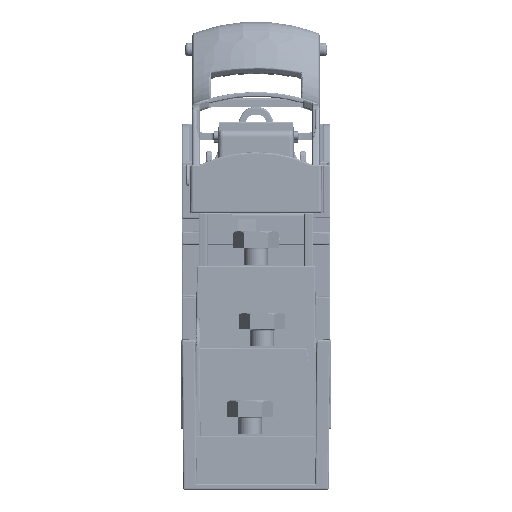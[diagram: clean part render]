
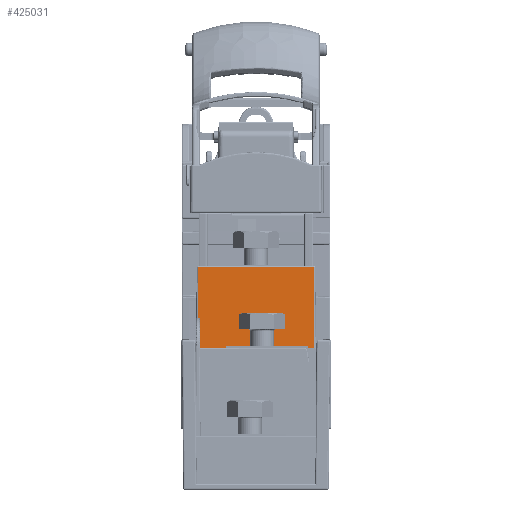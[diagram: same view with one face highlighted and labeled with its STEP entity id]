
A CAD part, left-side view. The second image highlights one B-rep face of the part: STEP entity #425031.
In plain terms, the highlighted planar face has unit normal (-1, 0, 0.009).
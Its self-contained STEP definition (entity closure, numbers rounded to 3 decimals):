
#18945 = ORIENTED_EDGE ( 'NONE', *, *, #455516, .T. ) ;
#18949 = ORIENTED_EDGE ( 'NONE', *, *, #464368, .T. ) ;
#18953 = ORIENTED_EDGE ( 'NONE', *, *, #496455, .F. ) ;
#18958 = ORIENTED_EDGE ( 'NONE', *, *, #464341, .T. ) ;
#18962 = ORIENTED_EDGE ( 'NONE', *, *, #394433, .T. ) ;
#18966 = ORIENTED_EDGE ( 'NONE', *, *, #464446, .T. ) ;
#18970 = ORIENTED_EDGE ( 'NONE', *, *, #464567, .T. ) ;
#18974 = ORIENTED_EDGE ( 'NONE', *, *, #464573, .T. ) ;
#18979 = ORIENTED_EDGE ( 'NONE', *, *, #464618, .T. ) ;
#18983 = ORIENTED_EDGE ( 'NONE', *, *, #393338, .F. ) ;
#18988 = ORIENTED_EDGE ( 'NONE', *, *, #393348, .F. ) ;
#18992 = ORIENTED_EDGE ( 'NONE', *, *, #393356, .T. ) ;
#18997 = ORIENTED_EDGE ( 'NONE', *, *, #464652, .T. ) ;
#19000 = ORIENTED_EDGE ( 'NONE', *, *, #464607, .T. ) ;
#19004 = ORIENTED_EDGE ( 'NONE', *, *, #486811, .T. ) ;
#24376 = B_SPLINE_CURVE_WITH_KNOTS ( 'NONE', 3,
 ( #382314, #382445, #382463, #382466 ),
 .UNSPECIFIED., .F., .F.,
 ( 4, 4 ),
 ( 0., 0. ),
 .UNSPECIFIED. ) ;
#89797 = CARTESIAN_POINT ( 'NONE',  ( -84.5, -18.831, 28. ) ) ;
#89870 = CARTESIAN_POINT ( 'NONE',  ( -84.5, -19.004, 28. ) ) ;
#89874 = CARTESIAN_POINT ( 'NONE',  ( -84.5, -19.172, 27.956 ) ) ;
#89876 = CARTESIAN_POINT ( 'NONE',  ( -84.501, -19.323, 27.87 ) ) ;
#123190 = CARTESIAN_POINT ( 'NONE',  ( -84.513, -1.959, 26.5 ) ) ;
#123194 = CARTESIAN_POINT ( 'NONE',  ( -84.513, -1.939, 26.5 ) ) ;
#123206 = CARTESIAN_POINT ( 'NONE',  ( -84.513, -1.98, 26.5 ) ) ;
#123208 = CARTESIAN_POINT ( 'NONE',  ( -84.513, -2., 26.5 ) ) ;
#146854 = CARTESIAN_POINT ( 'NONE',  ( -84.513, -2., 26.5 ) ) ;
#149111 = VERTEX_POINT ( 'NONE', #146854 ) ;
#149311 = VERTEX_POINT ( 'NONE', #151153 ) ;
#151153 = CARTESIAN_POINT ( 'NONE',  ( -84.513, -2.061, 26.5 ) ) ;
#195599 = AXIS2_PLACEMENT_3D ( 'NONE', #362766, #362771, #362777 ) ;
#200033 = CARTESIAN_POINT ( 'NONE',  ( -84.5, -18.831, 28. ) ) ;
#200056 = CARTESIAN_POINT ( 'NONE',  ( -84.501, -19.323, 27.87 ) ) ;
#200159 = CARTESIAN_POINT ( 'NONE',  ( -84.415, 18.638, 37.703 ) ) ;
#200164 = CARTESIAN_POINT ( 'NONE',  ( -84.5, 18.553, 28. ) ) ;
#212322 = VERTEX_POINT ( 'NONE', #230699 ) ;
#212341 = VERTEX_POINT ( 'NONE', #230855 ) ;
#212349 = VERTEX_POINT ( 'NONE', #230899 ) ;
#213335 = VERTEX_POINT ( 'NONE', #219768 ) ;
#213368 = VERTEX_POINT ( 'NONE', #219826 ) ;
#213383 = VERTEX_POINT ( 'NONE', #219887 ) ;
#213402 = VERTEX_POINT ( 'NONE', #219932 ) ;
#213816 = VERTEX_POINT ( 'NONE', #200033 ) ;
#213834 = VERTEX_POINT ( 'NONE', #200056 ) ;
#213931 = VERTEX_POINT ( 'NONE', #200159 ) ;
#213937 = VERTEX_POINT ( 'NONE', #200164 ) ;
#219768 = CARTESIAN_POINT ( 'NONE',  ( -84.513, 4.4, 26.5 ) ) ;
#219826 = CARTESIAN_POINT ( 'NONE',  ( -84.413, 19.235, 38. ) ) ;
#219887 = CARTESIAN_POINT ( 'NONE',  ( -84.413, 18.938, 38. ) ) ;
#219932 = CARTESIAN_POINT ( 'NONE',  ( -84.5, 4.413, 28. ) ) ;
#230699 = CARTESIAN_POINT ( 'NONE',  ( -84.5, -8.413, 28. ) ) ;
#230855 = CARTESIAN_POINT ( 'NONE',  ( -84.513, -8.4, 26.5 ) ) ;
#230899 = CARTESIAN_POINT ( 'NONE',  ( -84.267, -19.089, 54.703 ) ) ;
#241577 = VERTEX_POINT ( 'NONE', #416715 ) ;
#241627 = VERTEX_POINT ( 'NONE', #416760 ) ;
#241655 = VECTOR ( 'NONE', #368118, 1000. ) ;
#241675 = VECTOR ( 'NONE', #368177, 1000. ) ;
#266799 = EDGE_LOOP ( 'NONE', ( #18945, #18949, #18953, #18958, #18962, #18966, #18970, #18974, #18979, #18983, #18988, #18992, #18997, #19000, #19004 ) ) ;
#281899 = B_SPLINE_CURVE_WITH_KNOTS ( 'NONE', 3,
 ( #123194, #123190, #123206, #123208 ),
 .UNSPECIFIED., .F., .F.,
 ( 4, 4 ),
 ( 0., 0. ),
 .UNSPECIFIED. ) ;
#294778 = VECTOR ( 'NONE', #385022, 1000. ) ;
#294818 = VECTOR ( 'NONE', #385094, 1000. ) ;
#294897 = VECTOR ( 'NONE', #385322, 1000. ) ;
#295017 = VECTOR ( 'NONE', #385688, 1000. ) ;
#295046 = VECTOR ( 'NONE', #385673, 1000. ) ;
#295089 = VECTOR ( 'NONE', #385773, 1000. ) ;
#295106 = VECTOR ( 'NONE', #385798, 1000. ) ;
#295135 = VECTOR ( 'NONE', #385899, 1000. ) ;
#362681 = FACE_OUTER_BOUND ( 'NONE', #266799, .T. ) ;
#362690 = PLANE ( 'NONE',  #195599 ) ;
#362766 = CARTESIAN_POINT ( 'NONE',  ( -84.5, 19.8, 28. ) ) ;
#362771 = DIRECTION ( 'NONE',  ( -1., 0., 0.009 ) ) ;
#362777 = DIRECTION ( 'NONE',  ( 0.009, 0., 1. ) ) ;
#367982 = CARTESIAN_POINT ( 'NONE',  ( -84.415, 18.638, 37.703 ) ) ;
#367994 = CARTESIAN_POINT ( 'NONE',  ( -84.5, 18.553, 28. ) ) ;
#368059 = CARTESIAN_POINT ( 'NONE',  ( -84.414, 18.639, 37.877 ) ) ;
#368065 = CARTESIAN_POINT ( 'NONE',  ( -84.413, 18.763, 38. ) ) ;
#368070 = CARTESIAN_POINT ( 'NONE',  ( -84.413, 18.938, 38. ) ) ;
#368090 = LINE ( 'NONE', #367994, #241655 ) ;
#368118 = DIRECTION ( 'NONE',  ( 0.009, 0.009, 1. ) ) ;
#368158 = LINE ( 'NONE', #368171, #241675 ) ;
#368171 = CARTESIAN_POINT ( 'NONE',  ( -84.5, 19.8, 28. ) ) ;
#368177 = DIRECTION ( 'NONE',  ( 0., -1., 0. ) ) ;
#382314 = CARTESIAN_POINT ( 'NONE',  ( -84.513, -2., 26.5 ) ) ;
#382445 = CARTESIAN_POINT ( 'NONE',  ( -84.513, -2.02, 26.5 ) ) ;
#382463 = CARTESIAN_POINT ( 'NONE',  ( -84.513, -2.041, 26.5 ) ) ;
#382466 = CARTESIAN_POINT ( 'NONE',  ( -84.513, -2.061, 26.5 ) ) ;
#384996 = CARTESIAN_POINT ( 'NONE',  ( -84.5, 19.8, 28. ) ) ;
#385009 = LINE ( 'NONE', #384996, #294778 ) ;
#385022 = DIRECTION ( 'NONE',  ( 0., -1., 0. ) ) ;
#385059 = LINE ( 'NONE', #385084, #294818 ) ;
#385084 = CARTESIAN_POINT ( 'NONE',  ( -84.513, 19.8, 26.5 ) ) ;
#385094 = DIRECTION ( 'NONE',  ( 0., -1., 0. ) ) ;
#385235 = LINE ( 'NONE', #385315, #294897 ) ;
#385315 = CARTESIAN_POINT ( 'NONE',  ( -84.501, -19.323, 27.87 ) ) ;
#385322 = DIRECTION ( 'NONE',  ( 0.009, 0.009, 1. ) ) ;
#385624 = LINE ( 'NONE', #385665, #295046 ) ;
#385650 = LINE ( 'NONE', #385676, #295017 ) ;
#385665 = CARTESIAN_POINT ( 'NONE',  ( -84.267, 19.8, 54.703 ) ) ;
#385673 = DIRECTION ( 'NONE',  ( 0., 1., 0. ) ) ;
#385676 = CARTESIAN_POINT ( 'NONE',  ( -84.267, 19.089, 54.703 ) ) ;
#385688 = DIRECTION ( 'NONE',  ( -0.009, 0.009, -1. ) ) ;
#385752 = LINE ( 'NONE', #385754, #295089 ) ;
#385754 = CARTESIAN_POINT ( 'NONE',  ( -84.513, 19.8, 26.5 ) ) ;
#385771 = LINE ( 'NONE', #385788, #295106 ) ;
#385773 = DIRECTION ( 'NONE',  ( 0., -1., 0. ) ) ;
#385788 = CARTESIAN_POINT ( 'NONE',  ( -84.413, 19.8, 38. ) ) ;
#385798 = DIRECTION ( 'NONE',  ( 0., -1., 0. ) ) ;
#385868 = LINE ( 'NONE', #385889, #295135 ) ;
#385889 = CARTESIAN_POINT ( 'NONE',  ( -84.5, 4.413, 28. ) ) ;
#385899 = DIRECTION ( 'NONE',  ( -0.009, -0.009, -1. ) ) ;
#393338 = EDGE_CURVE ( 'NONE', #213931, #213383, #480297, .T. ) ;
#393348 = EDGE_CURVE ( 'NONE', #213937, #213931, #368090, .T. ) ;
#393356 = EDGE_CURVE ( 'NONE', #213937, #213402, #368158, .T. ) ;
#394433 = EDGE_CURVE ( 'NONE', #213816, #213834, #480369, .T. ) ;
#416715 = CARTESIAN_POINT ( 'NONE',  ( -84.267, 19.089, 54.703 ) ) ;
#416760 = CARTESIAN_POINT ( 'NONE',  ( -84.513, -1.939, 26.5 ) ) ;
#425031 = ADVANCED_FACE ( 'NONE', ( #362681 ), #362690, .T. ) ;
#428619 = VECTOR ( 'NONE', #476729, 1000. ) ;
#455516 = EDGE_CURVE ( 'NONE', #149111, #149311, #24376, .T. ) ;
#464341 = EDGE_CURVE ( 'NONE', #212322, #213816, #385009, .T. ) ;
#464368 = EDGE_CURVE ( 'NONE', #149311, #212341, #385059, .T. ) ;
#464446 = EDGE_CURVE ( 'NONE', #213834, #212349, #385235, .T. ) ;
#464567 = EDGE_CURVE ( 'NONE', #212349, #241577, #385624, .T. ) ;
#464573 = EDGE_CURVE ( 'NONE', #241577, #213368, #385650, .T. ) ;
#464607 = EDGE_CURVE ( 'NONE', #213335, #241627, #385752, .T. ) ;
#464618 = EDGE_CURVE ( 'NONE', #213368, #213383, #385771, .T. ) ;
#464652 = EDGE_CURVE ( 'NONE', #213402, #213335, #385868, .T. ) ;
#476712 = LINE ( 'NONE', #476724, #428619 ) ;
#476724 = CARTESIAN_POINT ( 'NONE',  ( -84.5, -8.413, 28. ) ) ;
#476729 = DIRECTION ( 'NONE',  ( -0.009, 0.009, -1. ) ) ;
#480297 =( BOUNDED_CURVE ( )  B_SPLINE_CURVE ( 3, ( #367982, #368059, #368065, #368070 ),
 .UNSPECIFIED., .F., .T. ) 
 B_SPLINE_CURVE_WITH_KNOTS ( ( 4, 4 ),
 ( 4.721, 6.283 ),
 .UNSPECIFIED. ) 
 CURVE ( )  GEOMETRIC_REPRESENTATION_ITEM ( )  RATIONAL_B_SPLINE_CURVE ( ( 1., 0.807, 0.807, 1. ) ) 
 REPRESENTATION_ITEM ( '' )  );
#480369 =( BOUNDED_CURVE ( )  B_SPLINE_CURVE ( 3, ( #89797, #89870, #89874, #89876 ),
 .UNSPECIFIED., .F., .T. ) 
 B_SPLINE_CURVE_WITH_KNOTS ( ( 4, 4 ),
 ( 3.142, 3.657 ),
 .UNSPECIFIED. ) 
 CURVE ( )  GEOMETRIC_REPRESENTATION_ITEM ( )  RATIONAL_B_SPLINE_CURVE ( ( 1., 0.978, 0.978, 1. ) ) 
 REPRESENTATION_ITEM ( '' )  );
#486811 = EDGE_CURVE ( 'NONE', #241627, #149111, #281899, .T. ) ;
#496455 = EDGE_CURVE ( 'NONE', #212322, #212341, #476712, .T. ) ;
